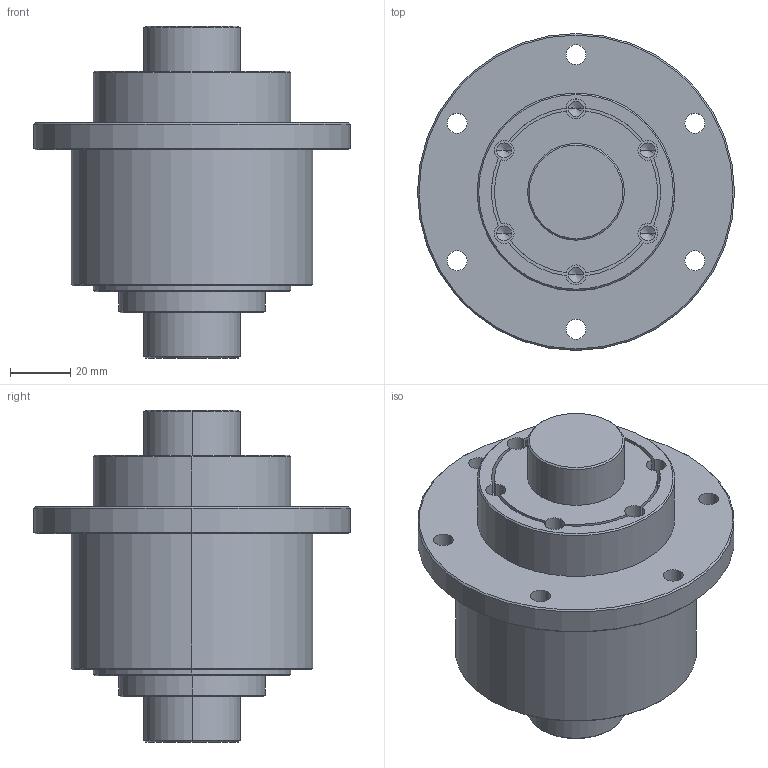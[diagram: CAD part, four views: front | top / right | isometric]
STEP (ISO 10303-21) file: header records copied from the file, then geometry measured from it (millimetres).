
FILE_DESCRIPTION (( 'STEP AP203' ), '1' );
FILE_NAME ('RLBF32.STEP', '2014-11-13T09:04:25', ( '' ), ( '' ), 'SwSTEP 2.0', 'SolidWorks 2014', '' );
FILE_SCHEMA (( 'CONFIG_CONTROL_DESIGN' ));
Length unit declared in the file: millimetre
Products named in the file (1): RLBF32
Bounding box: 105 x 105 x 110 mm (x, y, z)
Volume: 398698.9 mm3; surface area: 63366.4 mm2
Topology: 3 solids, 3 shells, 109 faces, 266 edges, 162 vertices
Faces by surface type: cylinder 70, cone 28, plane 11
Entity records: 3273 total; most frequent: DIRECTION 630, CARTESIAN_POINT 526, ORIENTED_EDGE 508, AXIS2_PLACEMENT_3D 266, EDGE_CURVE 254, VERTEX_POINT 162, CIRCLE 156, EDGE_LOOP 136
